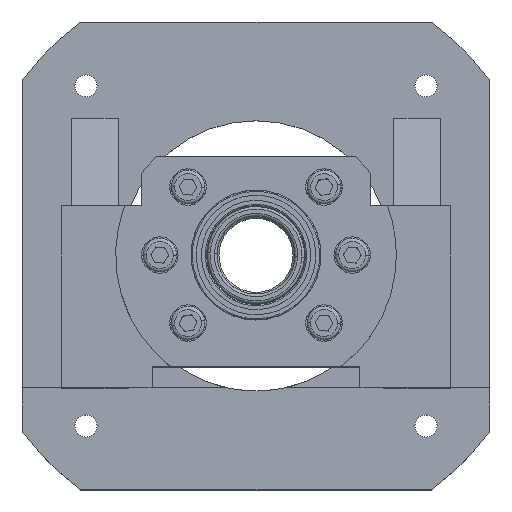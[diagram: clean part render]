
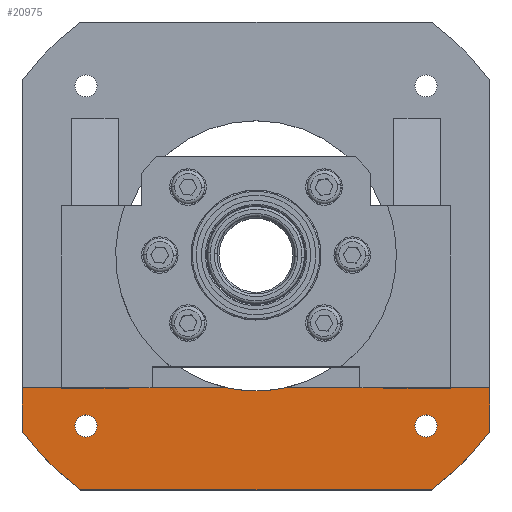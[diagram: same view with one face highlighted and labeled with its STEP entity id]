
A CAD part, top view. The second image highlights one B-rep face of the part: STEP entity #20975.
In plain terms, the highlighted planar face has unit normal (0, 0, 1).
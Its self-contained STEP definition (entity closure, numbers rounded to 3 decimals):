
#285 = CIRCLE ( 'NONE', #11445, 4.25 ) ;
#328 = DIRECTION ( 'NONE',  ( 0., -1., 0. ) ) ;
#390 = CIRCLE ( 'NONE', #826, 4.25 ) ;
#560 = DIRECTION ( 'NONE',  ( 1., 0., 0. ) ) ;
#649 = CARTESIAN_POINT ( 'NONE',  ( 90., -50.7, 21. ) ) ;
#826 = AXIS2_PLACEMENT_3D ( 'NONE', #12337, #11874, #11336 ) ;
#963 = ORIENTED_EDGE ( 'NONE', *, *, #10482, .T. ) ;
#1141 = LINE ( 'NONE', #15998, #1719 ) ;
#1173 = AXIS2_PLACEMENT_3D ( 'NONE', #16229, #5427, #17973 ) ;
#1425 = CARTESIAN_POINT ( 'NONE',  ( -69.657, -65.407, 21. ) ) ;
#1635 = VERTEX_POINT ( 'NONE', #8504 ) ;
#1719 = VECTOR ( 'NONE', #16587, 1000. ) ;
#1898 = VERTEX_POINT ( 'NONE', #649 ) ;
#2052 = VERTEX_POINT ( 'NONE', #13966 ) ;
#2308 = CIRCLE ( 'NONE', #1173, 112.5 ) ;
#3194 = FACE_BOUND ( 'NONE', #16963, .T. ) ;
#3217 = AXIS2_PLACEMENT_3D ( 'NONE', #22083, #11522, #560 ) ;
#3636 = DIRECTION ( 'NONE',  ( 1., 0., 0. ) ) ;
#4510 = DIRECTION ( 'NONE',  ( 0., 0., -1. ) ) ;
#4551 = DIRECTION ( 'NONE',  ( 1., 0., 0. ) ) ;
#5034 = ORIENTED_EDGE ( 'NONE', *, *, #14936, .F. ) ;
#5079 = VERTEX_POINT ( 'NONE', #18370 ) ;
#5087 = VERTEX_POINT ( 'NONE', #18322 ) ;
#5157 = AXIS2_PLACEMENT_3D ( 'NONE', #6015, #18527, #7855 ) ;
#5208 = CARTESIAN_POINT ( 'NONE',  ( -90., -90., 21. ) ) ;
#5301 = VERTEX_POINT ( 'NONE', #17321 ) ;
#5312 = DIRECTION ( 'NONE',  ( 0., 1., 0. ) ) ;
#5316 = ORIENTED_EDGE ( 'NONE', *, *, #22864, .F. ) ;
#5364 = CARTESIAN_POINT ( 'NONE',  ( -104.626, -50.7, 21. ) ) ;
#5427 = DIRECTION ( 'NONE',  ( 0., 0., 1. ) ) ;
#6015 = CARTESIAN_POINT ( 'NONE',  ( -65.407, -65.407, 21. ) ) ;
#6114 = AXIS2_PLACEMENT_3D ( 'NONE', #17714, #7004, #19497 ) ;
#6483 = ORIENTED_EDGE ( 'NONE', *, *, #9468, .T. ) ;
#6534 = EDGE_CURVE ( 'NONE', #5087, #14031, #390, .T. ) ;
#6755 = EDGE_CURVE ( 'NONE', #5079, #1898, #7904, .T. ) ;
#7004 = DIRECTION ( 'NONE',  ( 0., 0., 1. ) ) ;
#7014 = VECTOR ( 'NONE', #328, 1000. ) ;
#7021 = VERTEX_POINT ( 'NONE', #21046 ) ;
#7276 = CARTESIAN_POINT ( 'NONE',  ( -104.626, -111., 21. ) ) ;
#7423 = VERTEX_POINT ( 'NONE', #18328 ) ;
#7855 = DIRECTION ( 'NONE',  ( 1., 0., 0. ) ) ;
#7904 = LINE ( 'NONE', #5364, #22035 ) ;
#8209 = ORIENTED_EDGE ( 'NONE', *, *, #22745, .T. ) ;
#8436 = LINE ( 'NONE', #5208, #21483 ) ;
#8504 = CARTESIAN_POINT ( 'NONE',  ( -90., -67.5, 21. ) ) ;
#8778 = ORIENTED_EDGE ( 'NONE', *, *, #18080, .T. ) ;
#9076 = CARTESIAN_POINT ( 'NONE',  ( 69.657, -65.407, 21. ) ) ;
#9468 = EDGE_CURVE ( 'NONE', #7423, #1898, #13497, .T. ) ;
#10441 = DIRECTION ( 'NONE',  ( 0., 0., 1. ) ) ;
#10482 = EDGE_CURVE ( 'NONE', #5079, #2052, #14037, .T. ) ;
#10733 = ORIENTED_EDGE ( 'NONE', *, *, #6755, .F. ) ;
#10832 = AXIS2_PLACEMENT_3D ( 'NONE', #7276, #14513, #3636 ) ;
#11015 = ORIENTED_EDGE ( 'NONE', *, *, #22489, .F. ) ;
#11336 = DIRECTION ( 'NONE',  ( 1., 0., 0. ) ) ;
#11445 = AXIS2_PLACEMENT_3D ( 'NONE', #21076, #10441, #22776 ) ;
#11522 = DIRECTION ( 'NONE',  ( 0., 0., 1. ) ) ;
#11789 = LINE ( 'NONE', #13095, #7014 ) ;
#11815 = EDGE_CURVE ( 'NONE', #22107, #7021, #13309, .T. ) ;
#11874 = DIRECTION ( 'NONE',  ( 0., 0., 1. ) ) ;
#12225 = EDGE_LOOP ( 'NONE', ( #5034, #18236 ) ) ;
#12327 = CARTESIAN_POINT ( 'NONE',  ( -67.5, -90., 21. ) ) ;
#12337 = CARTESIAN_POINT ( 'NONE',  ( -65.407, -65.407, 21. ) ) ;
#12689 = PLANE ( 'NONE',  #10832 ) ;
#13095 = CARTESIAN_POINT ( 'NONE',  ( -90., 90., 21. ) ) ;
#13309 = CIRCLE ( 'NONE', #3217, 4.25 ) ;
#13497 = LINE ( 'NONE', #17885, #19311 ) ;
#13966 = CARTESIAN_POINT ( 'NONE',  ( -11.555, -50.7, 21. ) ) ;
#14031 = VERTEX_POINT ( 'NONE', #1425 ) ;
#14037 = CIRCLE ( 'NONE', #19492, 52. ) ;
#14513 = DIRECTION ( 'NONE',  ( 0., 0., 1. ) ) ;
#14936 = EDGE_CURVE ( 'NONE', #14031, #5087, #20988, .T. ) ;
#15367 = CARTESIAN_POINT ( 'NONE',  ( 0., 0., 21. ) ) ;
#15998 = CARTESIAN_POINT ( 'NONE',  ( -104.626, -50.7, 21. ) ) ;
#16229 = CARTESIAN_POINT ( 'NONE',  ( 0., 0., 21. ) ) ;
#16487 = FACE_OUTER_BOUND ( 'NONE', #22398, .T. ) ;
#16587 = DIRECTION ( 'NONE',  ( 1., 0., 0. ) ) ;
#16594 = ORIENTED_EDGE ( 'NONE', *, *, #17212, .T. ) ;
#16963 = EDGE_LOOP ( 'NONE', ( #11015, #19898 ) ) ;
#17132 = DIRECTION ( 'NONE',  ( 1., 0., 0. ) ) ;
#17212 = EDGE_CURVE ( 'NONE', #17786, #17219, #8436, .T. ) ;
#17219 = VERTEX_POINT ( 'NONE', #17799 ) ;
#17321 = CARTESIAN_POINT ( 'NONE',  ( -90., -50.7, 21. ) ) ;
#17589 = FACE_BOUND ( 'NONE', #12225, .T. ) ;
#17714 = CARTESIAN_POINT ( 'NONE',  ( 0., 0., 21. ) ) ;
#17786 = VERTEX_POINT ( 'NONE', #12327 ) ;
#17799 = CARTESIAN_POINT ( 'NONE',  ( 67.5, -90., 21. ) ) ;
#17885 = CARTESIAN_POINT ( 'NONE',  ( 90., 90., 21. ) ) ;
#17973 = DIRECTION ( 'NONE',  ( 1., 0., 0. ) ) ;
#18080 = EDGE_CURVE ( 'NONE', #5301, #1635, #11789, .T. ) ;
#18236 = ORIENTED_EDGE ( 'NONE', *, *, #6534, .F. ) ;
#18322 = CARTESIAN_POINT ( 'NONE',  ( -61.157, -65.407, 21. ) ) ;
#18328 = CARTESIAN_POINT ( 'NONE',  ( 90., -67.5, 21. ) ) ;
#18370 = CARTESIAN_POINT ( 'NONE',  ( 11.555, -50.7, 21. ) ) ;
#18527 = DIRECTION ( 'NONE',  ( 0., 0., 1. ) ) ;
#19311 = VECTOR ( 'NONE', #5312, 1000. ) ;
#19492 = AXIS2_PLACEMENT_3D ( 'NONE', #15367, #4510, #17132 ) ;
#19497 = DIRECTION ( 'NONE',  ( 1., 0., 0. ) ) ;
#19570 = EDGE_CURVE ( 'NONE', #17219, #7423, #21459, .T. ) ;
#19898 = ORIENTED_EDGE ( 'NONE', *, *, #11815, .F. ) ;
#20710 = ORIENTED_EDGE ( 'NONE', *, *, #19570, .T. ) ;
#20975 = ADVANCED_FACE ( 'NONE', ( #3194, #17589, #16487 ), #12689, .T. ) ;
#20988 = CIRCLE ( 'NONE', #5157, 4.25 ) ;
#21046 = CARTESIAN_POINT ( 'NONE',  ( 61.157, -65.407, 21. ) ) ;
#21076 = CARTESIAN_POINT ( 'NONE',  ( 65.407, -65.407, 21. ) ) ;
#21459 = CIRCLE ( 'NONE', #6114, 112.5 ) ;
#21483 = VECTOR ( 'NONE', #23013, 1000. ) ;
#22035 = VECTOR ( 'NONE', #4551, 1000. ) ;
#22083 = CARTESIAN_POINT ( 'NONE',  ( 65.407, -65.407, 21. ) ) ;
#22107 = VERTEX_POINT ( 'NONE', #9076 ) ;
#22398 = EDGE_LOOP ( 'NONE', ( #8778, #8209, #16594, #20710, #6483, #10733, #963, #5316 ) ) ;
#22489 = EDGE_CURVE ( 'NONE', #7021, #22107, #285, .T. ) ;
#22745 = EDGE_CURVE ( 'NONE', #1635, #17786, #2308, .T. ) ;
#22776 = DIRECTION ( 'NONE',  ( 1., 0., 0. ) ) ;
#22864 = EDGE_CURVE ( 'NONE', #5301, #2052, #1141, .T. ) ;
#23013 = DIRECTION ( 'NONE',  ( 1., 0., 0. ) ) ;
